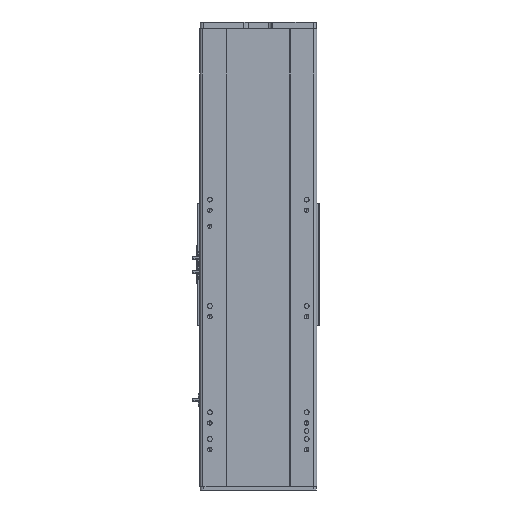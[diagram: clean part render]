
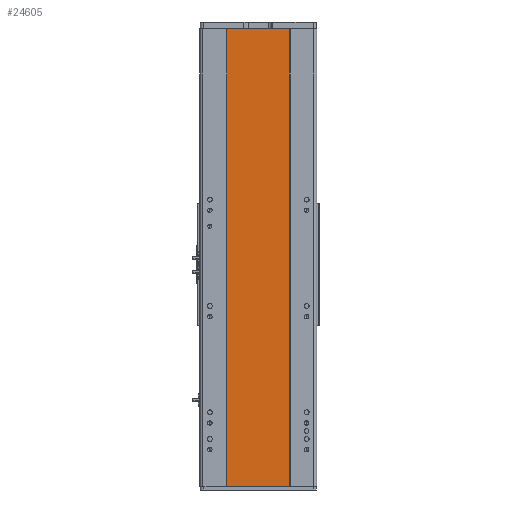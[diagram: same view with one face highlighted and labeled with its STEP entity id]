
A CAD part, front view. The second image highlights one B-rep face of the part: STEP entity #24605.
In plain terms, the highlighted planar face has unit normal (0, -1, 0).
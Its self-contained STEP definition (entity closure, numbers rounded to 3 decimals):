
#682 = CARTESIAN_POINT ( 'NONE',  ( 59., 1., 430.5 ) ) ;
#959 = EDGE_CURVE ( 'NONE', #33458, #17875, #27485, .T. ) ;
#1407 = CARTESIAN_POINT ( 'NONE',  ( 59., 1., 430.5 ) ) ;
#2323 = DIRECTION ( 'NONE',  ( 1., 0., 0. ) ) ;
#2409 = DIRECTION ( 'NONE',  ( 0., 0., -1. ) ) ;
#3590 = LINE ( 'NONE', #21732, #29153 ) ;
#4732 = VERTEX_POINT ( 'NONE', #9028 ) ;
#5953 = EDGE_LOOP ( 'NONE', ( #16338, #11820, #17983, #25707 ) ) ;
#9028 = CARTESIAN_POINT ( 'NONE',  ( -59., 1., -430.5 ) ) ;
#11075 = VERTEX_POINT ( 'NONE', #35649 ) ;
#11820 = ORIENTED_EDGE ( 'NONE', *, *, #959, .F. ) ;
#11880 = LINE ( 'NONE', #33598, #26902 ) ;
#14697 = PLANE ( 'NONE',  #18070 ) ;
#16338 = ORIENTED_EDGE ( 'NONE', *, *, #16860, .T. ) ;
#16860 = EDGE_CURVE ( 'NONE', #4732, #17875, #11880, .T. ) ;
#16886 = VECTOR ( 'NONE', #29123, 1000. ) ;
#17875 = VERTEX_POINT ( 'NONE', #35973 ) ;
#17983 = ORIENTED_EDGE ( 'NONE', *, *, #35403, .F. ) ;
#18070 = AXIS2_PLACEMENT_3D ( 'NONE', #24929, #25048, #28747 ) ;
#18140 = EDGE_CURVE ( 'NONE', #11075, #4732, #21970, .T. ) ;
#21732 = CARTESIAN_POINT ( 'NONE',  ( -59., 1., 430.5 ) ) ;
#21970 = LINE ( 'NONE', #33092, #32106 ) ;
#24605 = ADVANCED_FACE ( 'NONE', ( #29100 ), #14697, .F. ) ;
#24929 = CARTESIAN_POINT ( 'NONE',  ( -59., 1., 430.5 ) ) ;
#25048 = DIRECTION ( 'NONE',  ( 0., 1., 0. ) ) ;
#25707 = ORIENTED_EDGE ( 'NONE', *, *, #18140, .T. ) ;
#26902 = VECTOR ( 'NONE', #2323, 1000. ) ;
#27485 = LINE ( 'NONE', #682, #16886 ) ;
#28747 = DIRECTION ( 'NONE',  ( -1., 0., 0. ) ) ;
#29100 = FACE_OUTER_BOUND ( 'NONE', #5953, .T. ) ;
#29123 = DIRECTION ( 'NONE',  ( 0., 0., -1. ) ) ;
#29153 = VECTOR ( 'NONE', #35482, 1000. ) ;
#32106 = VECTOR ( 'NONE', #2409, 1000. ) ;
#33092 = CARTESIAN_POINT ( 'NONE',  ( -59., 1., 430.5 ) ) ;
#33458 = VERTEX_POINT ( 'NONE', #1407 ) ;
#33598 = CARTESIAN_POINT ( 'NONE',  ( -59., 1., -430.5 ) ) ;
#35403 = EDGE_CURVE ( 'NONE', #11075, #33458, #3590, .T. ) ;
#35482 = DIRECTION ( 'NONE',  ( 1., 0., 0. ) ) ;
#35649 = CARTESIAN_POINT ( 'NONE',  ( -59., 1., 430.5 ) ) ;
#35973 = CARTESIAN_POINT ( 'NONE',  ( 59., 1., -430.5 ) ) ;
